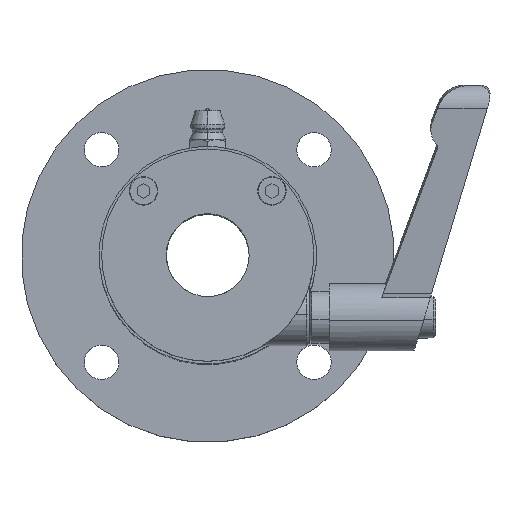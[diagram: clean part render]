
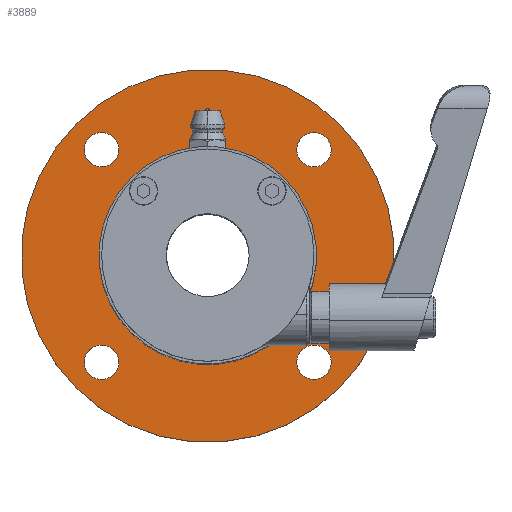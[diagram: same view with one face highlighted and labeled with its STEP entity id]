
A CAD part, top view. The second image highlights one B-rep face of the part: STEP entity #3889.
In plain terms, the highlighted planar face has unit normal (0, 0, 1).
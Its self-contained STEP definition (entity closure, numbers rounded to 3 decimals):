
#48 = ORIENTED_EDGE ( 'NONE', *, *, #8203, .T. ) ;
#393 = VERTEX_POINT ( 'NONE', #5902 ) ;
#460 = CIRCLE ( 'NONE', #8654, 21. ) ;
#488 = DIRECTION ( 'NONE',  ( -0.707, 0.707, 0. ) ) ;
#753 = EDGE_LOOP ( 'NONE', ( #5685, #5746 ) ) ;
#931 = CARTESIAN_POINT ( 'NONE',  ( -32.501, 16.938, 66.823 ) ) ;
#1284 = DIRECTION ( 'NONE',  ( 0., 0., -1. ) ) ;
#1303 = CARTESIAN_POINT ( 'NONE',  ( -30.151, -21.724, 66.823 ) ) ;
#1391 = CARTESIAN_POINT ( 'NONE',  ( -30.151, 19.288, 66.823 ) ) ;
#1426 = EDGE_CURVE ( 'NONE', #10829, #5196, #3544, .T. ) ;
#1504 = DIRECTION ( 'NONE',  ( 0., 0., -1. ) ) ;
#1781 = AXIS2_PLACEMENT_3D ( 'NONE', #5771, #7613, #4014 ) ;
#1853 = AXIS2_PLACEMENT_3D ( 'NONE', #9531, #6102, #1887 ) ;
#1857 = EDGE_LOOP ( 'NONE', ( #8311, #4466 ) ) ;
#1870 = CIRCLE ( 'NONE', #10426, 3.324 ) ;
#1887 = DIRECTION ( 'NONE',  ( -0.707, -0.707, 0. ) ) ;
#1894 = EDGE_CURVE ( 'NONE', #4605, #4715, #1870, .T. ) ;
#2086 = VERTEX_POINT ( 'NONE', #4514 ) ;
#2203 = EDGE_LOOP ( 'NONE', ( #48, #6233 ) ) ;
#2230 = ORIENTED_EDGE ( 'NONE', *, *, #10369, .T. ) ;
#2719 = VERTEX_POINT ( 'NONE', #5275 ) ;
#2845 = CARTESIAN_POINT ( 'NONE',  ( 10.862, 19.288, 66.823 ) ) ;
#2850 = CIRCLE ( 'NONE', #5215, 3.324 ) ;
#2932 = CARTESIAN_POINT ( 'NONE',  ( 8.511, 21.638, 66.823 ) ) ;
#3096 = DIRECTION ( 'NONE',  ( 0.707, -0.707, 0. ) ) ;
#3270 = FACE_OUTER_BOUND ( 'NONE', #9858, .T. ) ;
#3544 = CIRCLE ( 'NONE', #3730, 3.323 ) ;
#3605 = AXIS2_PLACEMENT_3D ( 'NONE', #6528, #7302, #3875 ) ;
#3730 = AXIS2_PLACEMENT_3D ( 'NONE', #1303, #6349, #488 ) ;
#3875 = DIRECTION ( 'NONE',  ( -0.707, -0.707, 0. ) ) ;
#3889 = ADVANCED_FACE ( 'NONE', ( #3270, #7376, #10028, #8324, #4073, #4927 ), #10754, .T. ) ;
#4014 = DIRECTION ( 'NONE',  ( 0.707, -0.707, 0. ) ) ;
#4018 = VERTEX_POINT ( 'NONE', #4521 ) ;
#4073 = FACE_BOUND ( 'NONE', #10153, .T. ) ;
#4163 = AXIS2_PLACEMENT_3D ( 'NONE', #6383, #1284, #4693 ) ;
#4252 = EDGE_CURVE ( 'NONE', #4018, #2719, #4895, .T. ) ;
#4398 = DIRECTION ( 'NONE',  ( 0.707, -0.707, 0. ) ) ;
#4466 = ORIENTED_EDGE ( 'NONE', *, *, #1894, .T. ) ;
#4514 = CARTESIAN_POINT ( 'NONE',  ( 13.212, -19.374, 66.823 ) ) ;
#4521 = CARTESIAN_POINT ( 'NONE',  ( 15.811, 24.238, 66.823 ) ) ;
#4592 = EDGE_CURVE ( 'NONE', #393, #10918, #460, .T. ) ;
#4605 = VERTEX_POINT ( 'NONE', #931 ) ;
#4654 = CARTESIAN_POINT ( 'NONE',  ( -27.801, 21.638, 66.823 ) ) ;
#4693 = DIRECTION ( 'NONE',  ( -0.707, 0.707, 0. ) ) ;
#4715 = VERTEX_POINT ( 'NONE', #4654 ) ;
#4717 = AXIS2_PLACEMENT_3D ( 'NONE', #10251, #8417, #9419 ) ;
#4740 = CIRCLE ( 'NONE', #7879, 36. ) ;
#4895 = CIRCLE ( 'NONE', #4717, 36. ) ;
#4927 = FACE_BOUND ( 'NONE', #9067, .T. ) ;
#4971 = EDGE_CURVE ( 'NONE', #2086, #10195, #5263, .T. ) ;
#5033 = DIRECTION ( 'NONE',  ( 0.707, 0.707, 0. ) ) ;
#5196 = VERTEX_POINT ( 'NONE', #10452 ) ;
#5215 = AXIS2_PLACEMENT_3D ( 'NONE', #7901, #10449, #8787 ) ;
#5263 = CIRCLE ( 'NONE', #1853, 3.324 ) ;
#5275 = CARTESIAN_POINT ( 'NONE',  ( -35.1, -26.674, 66.823 ) ) ;
#5502 = CARTESIAN_POINT ( 'NONE',  ( -32.501, -19.374, 66.823 ) ) ;
#5592 = CIRCLE ( 'NONE', #4163, 3.323 ) ;
#5685 = ORIENTED_EDGE ( 'NONE', *, *, #1426, .T. ) ;
#5746 = ORIENTED_EDGE ( 'NONE', *, *, #8617, .T. ) ;
#5771 = CARTESIAN_POINT ( 'NONE',  ( 10.508, 18.935, 66.823 ) ) ;
#5902 = CARTESIAN_POINT ( 'NONE',  ( 5.205, 13.631, 66.823 ) ) ;
#5915 = DIRECTION ( 'NONE',  ( 0.707, 0.707, 0. ) ) ;
#5947 = DIRECTION ( 'NONE',  ( 0., 0., -1. ) ) ;
#6102 = DIRECTION ( 'NONE',  ( 0., 0., -1. ) ) ;
#6228 = AXIS2_PLACEMENT_3D ( 'NONE', #7440, #10925, #3096 ) ;
#6233 = ORIENTED_EDGE ( 'NONE', *, *, #4971, .T. ) ;
#6349 = DIRECTION ( 'NONE',  ( 0., 0., -1. ) ) ;
#6361 = ORIENTED_EDGE ( 'NONE', *, *, #6474, .F. ) ;
#6383 = CARTESIAN_POINT ( 'NONE',  ( -30.151, -21.724, 66.823 ) ) ;
#6474 = EDGE_CURVE ( 'NONE', #2719, #4018, #4740, .T. ) ;
#6528 = CARTESIAN_POINT ( 'NONE',  ( 10.862, -21.724, 66.823 ) ) ;
#6598 = CARTESIAN_POINT ( 'NONE',  ( -9.645, -1.218, 66.823 ) ) ;
#6836 = EDGE_CURVE ( 'NONE', #4715, #4605, #2850, .T. ) ;
#6896 = CARTESIAN_POINT ( 'NONE',  ( 8.511, -24.074, 66.823 ) ) ;
#7144 = ORIENTED_EDGE ( 'NONE', *, *, #10144, .T. ) ;
#7302 = DIRECTION ( 'NONE',  ( 0., 0., -1. ) ) ;
#7376 = FACE_BOUND ( 'NONE', #2203, .T. ) ;
#7440 = CARTESIAN_POINT ( 'NONE',  ( 10.862, 19.288, 66.823 ) ) ;
#7584 = VERTEX_POINT ( 'NONE', #8396 ) ;
#7613 = DIRECTION ( 'NONE',  ( 0., 0., 1. ) ) ;
#7729 = ORIENTED_EDGE ( 'NONE', *, *, #4252, .F. ) ;
#7879 = AXIS2_PLACEMENT_3D ( 'NONE', #6598, #5947, #9221 ) ;
#7901 = CARTESIAN_POINT ( 'NONE',  ( -30.151, 19.288, 66.823 ) ) ;
#7909 = CARTESIAN_POINT ( 'NONE',  ( -24.494, -16.067, 66.823 ) ) ;
#8096 = AXIS2_PLACEMENT_3D ( 'NONE', #2845, #9567, #4398 ) ;
#8203 = EDGE_CURVE ( 'NONE', #10195, #2086, #8440, .T. ) ;
#8293 = ORIENTED_EDGE ( 'NONE', *, *, #4592, .T. ) ;
#8311 = ORIENTED_EDGE ( 'NONE', *, *, #6836, .T. ) ;
#8317 = CARTESIAN_POINT ( 'NONE',  ( -9.645, -1.218, 66.823 ) ) ;
#8324 = FACE_BOUND ( 'NONE', #1857, .T. ) ;
#8343 = CIRCLE ( 'NONE', #6228, 3.324 ) ;
#8396 = CARTESIAN_POINT ( 'NONE',  ( 13.212, 16.938, 66.823 ) ) ;
#8417 = DIRECTION ( 'NONE',  ( 0., 0., -1. ) ) ;
#8440 = CIRCLE ( 'NONE', #3605, 3.324 ) ;
#8457 = EDGE_CURVE ( 'NONE', #7584, #8604, #8633, .T. ) ;
#8604 = VERTEX_POINT ( 'NONE', #2932 ) ;
#8617 = EDGE_CURVE ( 'NONE', #5196, #10829, #5592, .T. ) ;
#8633 = CIRCLE ( 'NONE', #8096, 3.324 ) ;
#8654 = AXIS2_PLACEMENT_3D ( 'NONE', #9451, #10177, #5915 ) ;
#8787 = DIRECTION ( 'NONE',  ( 0.707, 0.707, 0. ) ) ;
#9059 = CIRCLE ( 'NONE', #11005, 21. ) ;
#9067 = EDGE_LOOP ( 'NONE', ( #8293, #2230 ) ) ;
#9221 = DIRECTION ( 'NONE',  ( 0.707, 0.707, 0. ) ) ;
#9419 = DIRECTION ( 'NONE',  ( 0.707, 0.707, 0. ) ) ;
#9451 = CARTESIAN_POINT ( 'NONE',  ( -9.645, -1.218, 66.823 ) ) ;
#9531 = CARTESIAN_POINT ( 'NONE',  ( 10.862, -21.724, 66.823 ) ) ;
#9567 = DIRECTION ( 'NONE',  ( 0., 0., -1. ) ) ;
#9858 = EDGE_LOOP ( 'NONE', ( #7729, #6361 ) ) ;
#10028 = FACE_BOUND ( 'NONE', #753, .T. ) ;
#10144 = EDGE_CURVE ( 'NONE', #8604, #7584, #8343, .T. ) ;
#10153 = EDGE_LOOP ( 'NONE', ( #10852, #7144 ) ) ;
#10177 = DIRECTION ( 'NONE',  ( 0., 0., -1. ) ) ;
#10195 = VERTEX_POINT ( 'NONE', #6896 ) ;
#10251 = CARTESIAN_POINT ( 'NONE',  ( -9.645, -1.218, 66.823 ) ) ;
#10369 = EDGE_CURVE ( 'NONE', #10918, #393, #9059, .T. ) ;
#10426 = AXIS2_PLACEMENT_3D ( 'NONE', #1391, #10971, #5033 ) ;
#10449 = DIRECTION ( 'NONE',  ( 0., 0., -1. ) ) ;
#10452 = CARTESIAN_POINT ( 'NONE',  ( -27.801, -24.074, 66.823 ) ) ;
#10754 = PLANE ( 'NONE',  #1781 ) ;
#10829 = VERTEX_POINT ( 'NONE', #5502 ) ;
#10852 = ORIENTED_EDGE ( 'NONE', *, *, #8457, .T. ) ;
#10856 = DIRECTION ( 'NONE',  ( 0.707, 0.707, 0. ) ) ;
#10918 = VERTEX_POINT ( 'NONE', #7909 ) ;
#10925 = DIRECTION ( 'NONE',  ( 0., 0., -1. ) ) ;
#10971 = DIRECTION ( 'NONE',  ( 0., 0., -1. ) ) ;
#11005 = AXIS2_PLACEMENT_3D ( 'NONE', #8317, #1504, #10856 ) ;
